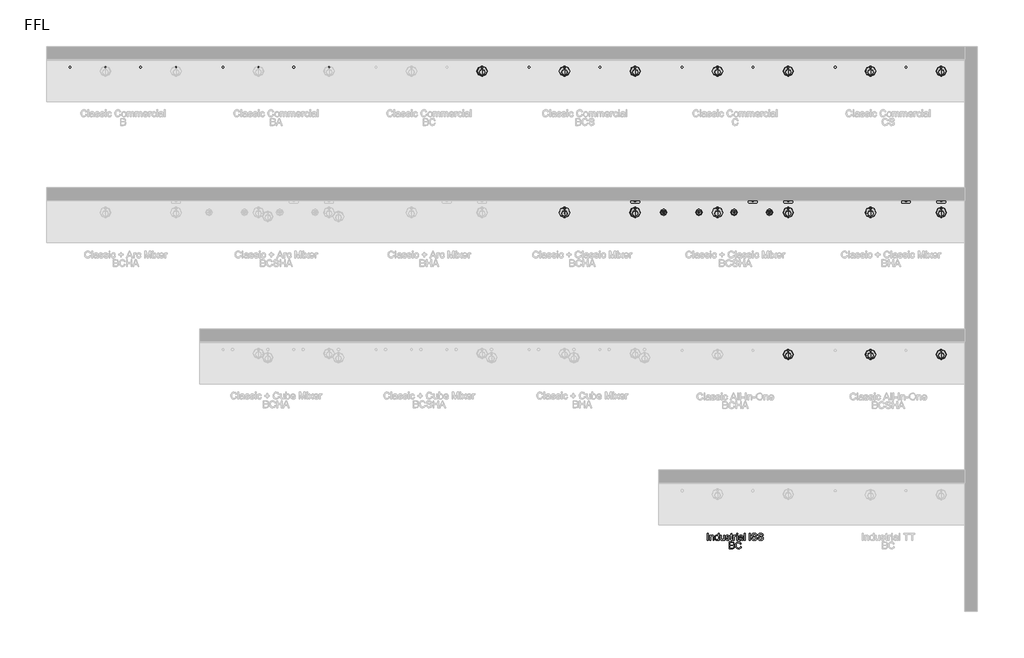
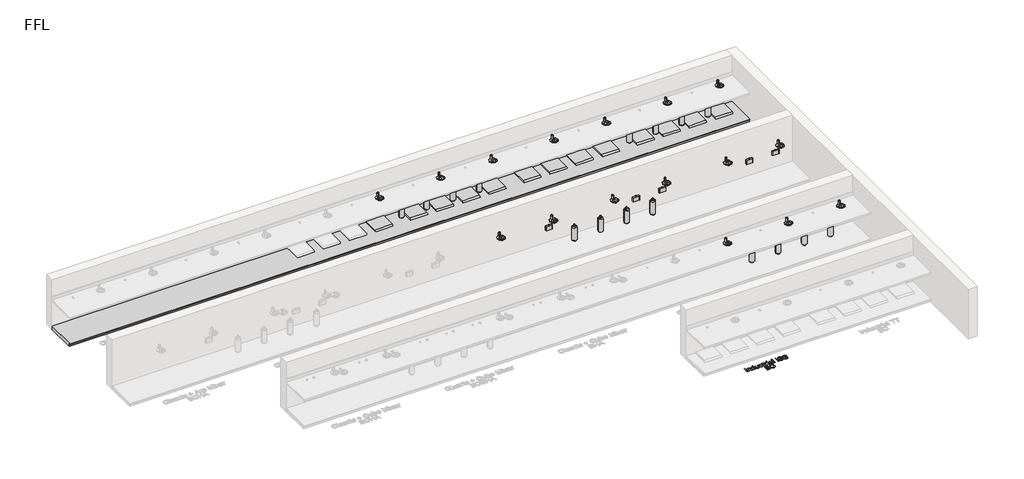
# One storey, part 4 of 13: 59 flow terminals, 1 furniture element, 1 proxy.
"""IFC4 building model written with IfcOpenShell, lengths in millimetres."""

from ifc_helpers import new_model, si_unit, origin, origin_with_axes, place, context, project, spatial, polyline, outline, extrude, transform, mapped, element, save
from components import flow_terminal_100_people_matte_black_e59bcbac, flow_terminal_100_people_matte_black_1da322c1, bcs_and_bc_6de74493, bright_chrome_13082571, co2_gas_cylinder_20234e14, generic_plinth_900mm_a81356e5

model = new_model("IFC4")

# Units and contexts
model_context = context("Model", 3, world=origin())
ifc_project = project(units=[si_unit("LENGTHUNIT", "METRE", prefix="MILLI")], contexts=[model_context])

# Site, building, storey
site = spatial("IfcSite", under=ifc_project)
building = spatial("IfcBuilding", under=site)
storey = spatial("IfcBuildingStorey", under=building, Name="FFL", Elevation=0.0)

# Proxy
placement = place(None, origin())
element("IfcBuildingElementProxy", 1, Name="150mm Arial", ObjectType="150mm Arial", at=placement, inside=storey, context=model_context, shape_type="SweptSolid", body=[
    extrude(outline(polyline([(7062.8534255, -2376.1981691), (7062.8534255, -2228.5058614), (7081.314964, -2228.5058614), (7081.314964, -2376.1981691), (7062.8534255, -2376.1981691)])), origin_with_axes(), (0.0, 0.0, 1.0), 5.0),
    extrude(outline(polyline([(7115.9303486, -2376.1981691), (7115.9303486, -2267.7366307), (7134.3918871, -2267.7366307), (7134.3918871, -2282.8808614), (7148.5084736, -2269.7919191), (7167.7813102, -2265.4289383), (7185.2152044, -2268.9445633), (7197.1142428, -2278.1753326), (7202.6490986, -2291.7510537), (7203.6226563, -2309.5996114), (7203.6226563, -2376.1981691), (7185.1611178, -2376.1981691), (7185.1611178, -2312.0875922), (7183.033714, -2295.7534576), (7175.5156852, -2287.1176403), (7162.8414063, -2283.8904768), (7152.0286058, -2285.7023758), (7142.8113582, -2291.138073), (7136.4967549, -2301.6398758), (7134.3918871, -2318.6500922), (7134.3918871, -2376.1981691), (7115.9303486, -2376.1981691)])), origin_with_axes(), (0.0, 0.0, 1.0), 5.0),
    extrude(outline(polyline([(7295.9303486, -2376.1981691), (7295.9303486, -2358.7823037), (7283.7158053, -2373.574972), (7266.8317909, -2378.5058614), (7254.8966948, -2376.7210057), (7243.971214, -2371.3664383), (7234.7224159, -2362.8162581), (7227.8173678, -2351.4445633), (7223.517488, -2337.7110898), (7222.0841948, -2322.075573), (7227.3666467, -2292.6885537), (7233.9652044, -2281.0329047), (7243.1959736, -2272.4601883), (7254.3603366, -2267.1867508), (7266.7596755, -2265.4289383), (7283.7789063, -2270.4589864), (7295.9303486, -2283.5298999), (7295.9303486, -2228.5058614), (7314.3918871, -2228.5058614), (7314.3918871, -2376.1981691), (7295.9303486, -2376.1981691)]), holes=[polyline([(7240.5457332, -2322.0034576), (7242.628065, -2338.7026763), (7248.8750602, -2350.5791787), (7257.9525842, -2357.6780369), (7268.5265025, -2360.044323), (7279.0959135, -2357.78621), (7287.9435698, -2351.011871), (7293.9336539, -2339.5951042), (7295.9303486, -2323.4097076), (7293.8975962, -2305.7143951), (7287.799339, -2293.4457653), (7278.7263222, -2286.2792989), (7267.7692909, -2283.8904768), (7257.0871996, -2286.1846475), (7248.3341948, -2293.0671595), (7242.4928486, -2304.8895754), (7240.5457332, -2322.0034576)])]), origin_with_axes(), (0.0, 0.0, 1.0), 5.0),
    extrude(outline(polyline([(7411.314964, -2376.1981691), (7411.314964, -2357.5563422), (7396.8558294, -2373.2684816), (7377.9976563, -2378.5058614), (7360.6358775, -2374.8279768), (7348.6647236, -2365.5972076), (7343.1659255, -2352.0034576), (7342.0841948, -2334.839996), (7342.0841948, -2267.7366307), (7360.5457332, -2267.7366307), (7360.5457332, -2326.1500922), (7361.6635217, -2344.9722076), (7368.9652044, -2356.0238903), (7382.721214, -2360.044323), (7398.1358775, -2355.933746), (7408.3221755, -2344.7378326), (7411.314964, -2324.1669191), (7411.314964, -2267.7366307), (7429.7765025, -2267.7366307), (7429.7765025, -2376.1981691), (7411.314964, -2376.1981691)])), origin_with_axes(), (0.0, 0.0, 1.0), 5.0),
    extrude(outline(polyline([(7448.2380409, -2343.8904768), (7466.6995794, -2341.5827845), (7469.611238, -2349.4794191), (7475.2452525, -2355.2847076), (7494.8245794, -2360.044323), (7513.6466948, -2355.6813422), (7519.7765025, -2345.4409576), (7513.6106371, -2337.1476883), (7494.6082332, -2331.8832653), (7466.8077525, -2322.8508133), (7454.674339, -2312.3039383), (7450.5457332, -2297.4121114), (7453.8630409, -2283.6561018), (7462.9135217, -2273.1452845), (7474.6503005, -2267.6825441), (7490.533714, -2265.4289383), (7512.9976563, -2269.0527364), (7527.2765025, -2278.8604287), (7533.6226563, -2295.4289383), (7515.1611178, -2297.7366307), (7508.2200121, -2287.5503326), (7491.9760217, -2283.8904768), (7474.3077525, -2287.388073), (7469.0072717, -2295.5371114), (7471.2067909, -2300.9097076), (7478.0938102, -2304.9842268), (7493.9952525, -2308.9145153), (7521.0926082, -2317.6044191), (7533.6767428, -2327.4481691), (7538.2380409, -2343.4938422), (7532.8834736, -2361.1621114), (7517.4327525, -2373.980621), (7494.5721755, -2378.5058614), (7475.9573919, -2376.324371), (7462.3726563, -2369.7798999), (7453.3041467, -2358.9445633), (7448.2380409, -2343.8904768)])), origin_with_axes(), (0.0, 0.0, 1.0), 5.0),
    extrude(outline(polyline([(7598.2380409, -2360.8015345), (7600.5457332, -2376.7390345), (7586.7356371, -2378.5058614), (7571.2668871, -2375.4409576), (7563.5505409, -2367.4000922), (7561.314964, -2346.450573), (7561.314964, -2286.1981691), (7547.4688102, -2286.1981691), (7547.4688102, -2267.7366307), (7561.314964, -2267.7366307), (7561.314964, -2241.3784576), (7579.7765025, -2230.5250922), (7579.7765025, -2267.7366307), (7598.2380409, -2267.7366307), (7598.2380409, -2286.1981691), (7579.7765025, -2286.1981691), (7579.7765025, -2345.9097076), (7580.7500602, -2355.4289383), (7583.9051082, -2358.8003326), (7590.1971755, -2360.044323), (7598.2380409, -2360.8015345)])), origin_with_axes(), (0.0, 0.0, 1.0), 5.0),
    extrude(outline(polyline([(7616.6995794, -2376.1981691), (7616.6995794, -2267.7366307), (7632.8534255, -2267.7366307), (7632.8534255, -2283.7823037), (7644.3197717, -2268.9986499), (7655.8582332, -2265.4289383), (7674.3918871, -2271.1260537), (7668.2260217, -2287.6765345), (7655.2452525, -2283.8904768), (7644.8065505, -2287.5323037), (7638.1539063, -2297.6284576), (7635.1611178, -2319.1909576), (7635.1611178, -2376.1981691), (7616.6995794, -2376.1981691)])), origin_with_axes(), (0.0, 0.0, 1.0), 5.0),
    extrude(outline(polyline([(7685.9303486, -2376.1981691), (7685.9303486, -2267.7366307), (7704.3918871, -2267.7366307), (7704.3918871, -2376.1981691), (7685.9303486, -2376.1981691)])), origin_with_axes(), (0.0, 0.0, 1.0), 5.0),
    extrude(outline(polyline([(7685.9303486, -2246.9673999), (7685.9303486, -2228.5058614), (7704.3918871, -2228.5058614), (7704.3918871, -2246.9673999), (7685.9303486, -2246.9673999)])), origin_with_axes(), (0.0, 0.0, 1.0), 5.0),
    extrude(outline(polyline([(7801.314964, -2362.3520153), (7783.4123198, -2374.8640345), (7763.6346755, -2378.5058614), (7748.2064904, -2376.3153566), (7736.8257813, -2369.7438422), (7729.8080529, -2359.7648758), (7727.4688102, -2347.3520153), (7731.002464, -2332.7486499), (7740.2873198, -2322.1476883), (7753.2140025, -2316.089996), (7769.1875602, -2313.3135537), (7801.2067909, -2306.9673999), (7801.314964, -2302.856823), (7800.0439303, -2294.6176403), (7796.2308294, -2289.2270153), (7787.7031852, -2285.2246114), (7775.8221755, -2283.8904768), (7757.1442909, -2287.4421595), (7748.2380409, -2300.044323), (7729.7765025, -2297.7366307), (7737.7632813, -2279.7077845), (7753.8450121, -2269.1428807), (7778.2019832, -2265.4289383), (7800.5757813, -2268.7101883), (7813.2140025, -2276.949371), (7818.8750602, -2289.4794191), (7819.7765025, -2305.6332653), (7819.7765025, -2328.6020153), (7820.7140025, -2360.6753326), (7824.3918871, -2376.1981691), (7805.9303486, -2376.1981691), (7801.314964, -2362.3520153)]), holes=[polyline([(7801.314964, -2325.4289383), (7771.5313102, -2331.089996), (7755.6478967, -2334.0827845), (7748.4543871, -2338.950573), (7745.9303486, -2346.0539383), (7751.4291467, -2356.0419191), (7767.564964, -2360.044323), (7786.2428486, -2355.6272557), (7798.2861178, -2344.9361499), (7801.2067909, -2330.6573037), (7801.314964, -2325.4289383)])]), origin_with_axes(), (0.0, 0.0, 1.0), 5.0),
    extrude(outline(polyline([(7845.1611178, -2376.1981691), (7845.1611178, -2228.5058614), (7863.6226563, -2228.5058614), (7863.6226563, -2376.1981691), (7845.1611178, -2376.1981691)])), origin_with_axes(), (0.0, 0.0, 1.0), 5.0),
    extrude(outline(polyline([(7953.6226563, -2376.1981691), (7953.6226563, -2228.5058614), (7972.0841948, -2228.5058614), (7972.0841948, -2376.1981691), (7953.6226563, -2376.1981691)])), origin_with_axes(), (0.0, 0.0, 1.0), 5.0),
    extrude(outline(polyline([(8002.0841948, -2325.4289383), (8020.5457332, -2325.4289383), (8026.4952525, -2343.9085057), (8041.0265025, -2355.591198), (8063.1659255, -2360.044323), (8082.4567909, -2356.6729287), (8094.9147236, -2347.4061018), (8099.0072717, -2335.0202845), (8095.9423678, -2323.4998518), (8083.3942909, -2315.1164383), (8056.5132813, -2308.0671595), (8027.5769832, -2298.9625922), (8011.8738582, -2285.2246114), (8006.6995794, -2266.871246), (8008.2996395, -2256.0584456), (8013.0998198, -2245.9758133), (8020.9739183, -2237.4301403), (8031.7957332, -2231.2282172), (8059.1635217, -2226.1981691), (8088.3702525, -2231.4625922), (8099.5661659, -2237.9619912), (8107.8414063, -2246.9313422), (8113.0787861, -2257.8117508), (8115.1611178, -2270.044323), (8096.6995794, -2270.044323), (8093.3101563, -2259.028698), (8086.2428486, -2251.0779768), (8075.2001803, -2246.2642749), (8059.8846755, -2244.6597076), (8044.2085938, -2246.246246), (8033.4543871, -2251.0058614), (8027.2344352, -2258.0100682), (8025.1611178, -2266.3303807), (8026.6304688, -2273.4247316), (8031.0385217, -2279.1308614), (8061.1827525, -2289.4433614), (8093.8510217, -2298.7101883), (8104.3753606, -2305.4079047), (8111.7176082, -2313.6741307), (8117.4688102, -2334.5515345), (8115.8146635, -2345.9322436), (8110.8522236, -2356.636871), (8102.784315, -2365.8496114), (8091.8137621, -2372.7546595), (8063.8870794, -2378.5058614), (8045.7996395, -2376.9553807), (8030.9123198, -2372.3039383), (8019.0538462, -2364.5335057), (8010.0529448, -2353.6260537), (8004.2746996, -2340.3387941), (8002.0841948, -2325.4289383)])), origin_with_axes(), (0.0, 0.0, 1.0), 5.0),
    extrude(outline(polyline([(8138.2380409, -2325.4289383), (8156.6995794, -2325.4289383), (8162.6490986, -2343.9085057), (8177.1803486, -2355.591198), (8199.3197717, -2360.044323), (8218.6106371, -2356.6729287), (8231.0685698, -2347.4061018), (8235.1611178, -2335.0202845), (8232.096214, -2323.4998518), (8219.5481371, -2315.1164383), (8192.6671275, -2308.0671595), (8163.7308294, -2298.9625922), (8148.0277044, -2285.2246114), (8142.8534255, -2266.871246), (8144.4534856, -2256.0584456), (8149.2536659, -2245.9758133), (8157.1277645, -2237.4301403), (8167.9495794, -2231.2282172), (8195.3173678, -2226.1981691), (8224.5240986, -2231.4625922), (8235.7200121, -2237.9619912), (8243.9952525, -2246.9313422), (8249.2326323, -2257.8117508), (8251.314964, -2270.044323), (8232.8534255, -2270.044323), (8229.4640025, -2259.028698), (8222.3966948, -2251.0779768), (8211.3540265, -2246.2642749), (8196.0385217, -2244.6597076), (8180.36244, -2246.246246), (8169.6082332, -2251.0058614), (8163.3882813, -2258.0100682), (8161.314964, -2266.3303807), (8162.784315, -2273.4247316), (8167.1923678, -2279.1308614), (8197.3365986, -2289.4433614), (8230.0048678, -2298.7101883), (8240.5292068, -2305.4079047), (8247.8714544, -2313.6741307), (8253.6226563, -2334.5515345), (8251.9685097, -2345.9322436), (8247.0060698, -2356.636871), (8238.9381611, -2365.8496114), (8227.9676082, -2372.7546595), (8200.0409255, -2378.5058614), (8181.9534856, -2376.9553807), (8167.0661659, -2372.3039383), (8155.2076924, -2364.5335057), (8146.2067909, -2353.6260537), (8140.4285457, -2340.3387941), (8138.2380409, -2325.4289383)])), origin_with_axes(), (0.0, 0.0, 1.0), 5.0),
    extrude(outline(polyline([(7529.0072717, -2558.5058614), (7529.0072717, -2410.8135537), (7585.3654448, -2410.8135537), (7612.9676082, -2415.1585057), (7622.2434496, -2420.6708254), (7629.2656852, -2428.5178807), (7635.1611178, -2447.4121114), (7630.2031852, -2464.6657172), (7615.221214, -2477.7366307), (7625.682452, -2483.199371), (7633.4123198, -2491.5106691), (7638.1854568, -2502.1206451), (7639.7765025, -2514.4794191), (7635.4315505, -2534.3291787), (7624.6683294, -2548.4637941), (7608.6046275, -2555.9637941), (7584.9327525, -2558.5058614), (7529.0072717, -2558.5058614)]), holes=[polyline([(7547.4688102, -2540.044323), (7585.3293871, -2540.044323), (7599.0313102, -2539.3231691), (7610.6238582, -2535.3027364), (7618.3041467, -2527.0996114), (7621.314964, -2514.6597076), (7617.7813102, -2500.308746), (7606.3329928, -2491.7450441), (7583.5265025, -2489.2750922), (7547.4688102, -2489.2750922), (7547.4688102, -2540.044323)]), polyline([(7547.4688102, -2470.8135537), (7581.1827525, -2470.8135537), (7600.8702525, -2469.2270153), (7612.7152044, -2462.3940826), (7616.6995794, -2450.3688422), (7612.9856371, -2438.325573), (7602.3486178, -2431.2041787), (7578.6226563, -2429.2750922), (7547.4688102, -2429.2750922), (7547.4688102, -2470.8135537)])]), origin_with_axes(), (0.0, 0.0, 1.0), 5.0),
    extrude(outline(polyline([(7769.0072717, -2506.0058614), (7787.4688102, -2510.7654768), (7778.9501803, -2532.2783975), (7765.5817909, -2547.9950441), (7748.0216948, -2557.6089263), (7726.9279448, -2560.8135537), (7705.5141828, -2558.3886739), (7688.5084736, -2551.1140345), (7675.4736178, -2539.2420393), (7665.9724159, -2523.0250922), (7660.1716347, -2503.9595874), (7658.2380409, -2483.5419191), (7660.4240385, -2462.0064624), (7666.9820313, -2443.4097076), (7677.5694712, -2428.3420994), (7691.8438102, -2417.3940826), (7708.7728967, -2410.7279167), (7727.3245794, -2408.5058614), (7747.5664664, -2411.3814624), (7764.3017428, -2420.0082653), (7777.0075722, -2433.8544191), (7785.1611178, -2452.388073), (7766.6995794, -2456.7871114), (7760.299339, -2443.3240706), (7751.5553486, -2434.0887941), (7740.3594352, -2428.7477484), (7726.6034255, -2426.9673999), (7710.7470553, -2428.9415585), (7697.721214, -2434.8640345), (7687.8368991, -2444.1128326), (7681.4051082, -2456.0659576), (7676.6995794, -2483.5058614), (7682.2704928, -2515.308746), (7689.3918871, -2527.1852484), (7699.6142428, -2535.6272557), (7711.869351, -2540.6708254), (7725.0890025, -2542.3520153), (7740.4991587, -2540.0623518), (7753.3402044, -2533.1933614), (7763.0352164, -2521.8171595), (7769.0072717, -2506.0058614)])), origin_with_axes(), (0.0, 0.0, 1.0), 5.0),
])

# Flow terminals
flow_terminal_100_people_matte_black_shape = flow_terminal_100_people_matte_black_e59bcbac(model_context)
element("IfcFlowTerminal", 2, ObjectType="PlumFixt_Zip Commercial_Classic_CS : 100 People - Bright Chrome", at=placement, inside=storey, context=model_context, shape_type="MappedRepresentation", body=[
    mapped(flow_terminal_100_people_matte_black_shape, transform((9779.2647071, 7562.7393304, 0.0), x_axis=(1.0, 0.0, 0.0), y_axis=(0.0, 1.0, 0.0), z_axis=(0.0, 0.0, 1.0))),
])
element("IfcFlowTerminal", 3, ObjectType="PlumFixt_Zip Commercial_Classic_CS : 100 People - Brushed Chrome", at=placement, inside=storey, context=model_context, shape_type="MappedRepresentation", body=[
    mapped(flow_terminal_100_people_matte_black_shape, transform((10529.2647071, 7562.7393304, 0.0), x_axis=(1.0, 0.0, 0.0), y_axis=(0.0, 1.0, 0.0), z_axis=(0.0, 0.0, 1.0))),
])
flow_terminal_100_people_matte_black_2_shape = flow_terminal_100_people_matte_black_1da322c1(model_context)
element("IfcFlowTerminal", 4, ObjectType="PlumFixt_Zip Commercial_Classic_Classic Mixer_BHA : 100 People - Gloss Black", at=placement, inside=storey, context=model_context, shape_type="MappedRepresentation", body=[
    mapped(flow_terminal_100_people_matte_black_2_shape, transform((11279.2657919, 4562.7393304, 0.0), x_axis=(1.0, 0.0, 0.0), y_axis=(0.0, 1.0, 0.0), z_axis=(0.0, 0.0, 1.0))),
])
element("IfcFlowTerminal", 5, ObjectType="PlumFixt_Zip Commercial_Classic_Classic Mixer_BCSHA : 100 People - Gloss Black", at=placement, inside=storey, context=model_context, shape_type="MappedRepresentation", body=[
    mapped(flow_terminal_100_people_matte_black_2_shape, transform((8029.2657919, 4562.7393304, 0.0), x_axis=(1.0, 0.0, 0.0), y_axis=(0.0, 1.0, 0.0), z_axis=(0.0, 0.0, 1.0))),
])
element("IfcFlowTerminal", 6, ObjectType="PlumFixt_Zip Commercial_Classic_C : 100 People - Gloss Black", at=placement, inside=storey, context=model_context, shape_type="MappedRepresentation", body=[
    mapped(flow_terminal_100_people_matte_black_shape, transform((8029.2647071, 7562.7393304, 0.0), x_axis=(1.0, 0.0, 0.0), y_axis=(0.0, 1.0, 0.0), z_axis=(0.0, 0.0, 1.0))),
])
element("IfcFlowTerminal", 7, ObjectType="PlumFixt_Zip Commercial_Classic_CS : 100 People - Gloss Black", at=placement, inside=storey, context=model_context, shape_type="MappedRepresentation", body=[
    mapped(flow_terminal_100_people_matte_black_shape, transform((11279.2647071, 7562.7393304, 0.0), x_axis=(1.0, 0.0, 0.0), y_axis=(0.0, 1.0, 0.0), z_axis=(0.0, 0.0, 1.0))),
])
element("IfcFlowTerminal", 8, ObjectType="PlumFixt_Zip Commercial_Classic_BCS : 100 People - Gloss Black", at=placement, inside=storey, context=model_context, shape_type="MappedRepresentation", body=[
    mapped(flow_terminal_100_people_matte_black_shape, transform((4779.2647071, 7562.7393304, 0.0), x_axis=(1.0, 0.0, 0.0), y_axis=(0.0, 1.0, 0.0), z_axis=(0.0, 0.0, 1.0))),
])
element("IfcFlowTerminal", 9, ObjectType="PlumFixt_Zip Commercial_Classic_Classic Mixer_BHA : 100 People - Matte Black", at=placement, inside=storey, context=model_context, shape_type="MappedRepresentation", body=[
    mapped(flow_terminal_100_people_matte_black_2_shape, transform((12029.2657919, 4562.7393304, 0.0), x_axis=(1.0, 0.0, 0.0), y_axis=(0.0, 1.0, 0.0), z_axis=(0.0, 0.0, 1.0))),
])
element("IfcFlowTerminal", 10, ObjectType="PlumFixt_Zip Commercial_Classic_Classic Mixer_BCSHA : 100 People - Matte Black", at=placement, inside=storey, context=model_context, shape_type="MappedRepresentation", body=[
    mapped(flow_terminal_100_people_matte_black_2_shape, transform((8779.2657919, 4562.7393304, 0.0), x_axis=(1.0, 0.0, 0.0), y_axis=(0.0, 1.0, 0.0), z_axis=(0.0, 0.0, 1.0))),
])
element("IfcFlowTerminal", 11, ObjectType="PlumFixt_Zip Commercial_Classic_C : 100 People - Matte Black", at=placement, inside=storey, context=model_context, shape_type="MappedRepresentation", body=[
    mapped(flow_terminal_100_people_matte_black_shape, transform((8779.2647071, 7562.7393304, 0.0), x_axis=(1.0, 0.0, 0.0), y_axis=(0.0, 1.0, 0.0), z_axis=(0.0, 0.0, 1.0))),
])
element("IfcFlowTerminal", 12, ObjectType="PlumFixt_Zip Commercial_Classic_CS : 100 People - Matte Black", at=placement, inside=storey, context=model_context, shape_type="MappedRepresentation", body=[
    mapped(flow_terminal_100_people_matte_black_shape, transform((12029.2647071, 7562.7393304, 0.0), x_axis=(1.0, 0.0, 0.0), y_axis=(0.0, 1.0, 0.0), z_axis=(0.0, 0.0, 1.0))),
])
element("IfcFlowTerminal", 13, ObjectType="PlumFixt_Zip Commercial_Classic_Classic Mixer_BCHA : 100 People - Matte Black", at=placement, inside=storey, context=model_context, shape_type="MappedRepresentation", body=[
    mapped(flow_terminal_100_people_matte_black_2_shape, transform((5529.2657919, 4562.7393304, 0.0), x_axis=(1.0, 0.0, 0.0), y_axis=(0.0, 1.0, 0.0), z_axis=(0.0, 0.0, 1.0))),
])
element("IfcFlowTerminal", 14, ObjectType="PlumFixt_Zip Commercial_Classic_BC : 100 People - Matte Black", at=placement, inside=storey, context=model_context, shape_type="MappedRepresentation", body=[
    mapped(flow_terminal_100_people_matte_black_shape, transform((2279.2647071, 7562.7393304, 0.0), x_axis=(1.0, 0.0, 0.0), y_axis=(0.0, 1.0, 0.0), z_axis=(0.0, 0.0, 1.0))),
])
element("IfcFlowTerminal", 15, ObjectType="PlumFixt_Zip Commercial_Classic_BCS : 100 People - Matte Black", at=placement, inside=storey, context=model_context, shape_type="MappedRepresentation", body=[
    mapped(flow_terminal_100_people_matte_black_shape, transform((5529.2647071, 7562.7393304, 0.0), x_axis=(1.0, 0.0, 0.0), y_axis=(0.0, 1.0, 0.0), z_axis=(0.0, 0.0, 1.0))),
])
bcs_and_bc_shape = bcs_and_bc_6de74493(model_context)
element("IfcFlowTerminal", 16, ObjectType="z_PlumFixt_Zip_Vent Tray : BCS and BC", at=placement, inside=storey, context=model_context, shape_type="MappedRepresentation", body=[
    mapped(bcs_and_bc_shape, transform((2279.2647071, 7705.7393304, 100.0), x_axis=(1.0, 0.0, 0.0), y_axis=(0.0, 1.0, 0.0), z_axis=(0.0, 0.0, 1.0))),
])
element("IfcFlowTerminal", 17, ObjectType="z_PlumFixt_Zip_Vent Tray : BCS and BC", at=placement, inside=storey, context=model_context, shape_type="MappedRepresentation", body=[
    mapped(bcs_and_bc_shape, transform((3279.2647071, 7705.7393304, 100.0), x_axis=(1.0, 0.0, 0.0), y_axis=(0.0, 1.0, 0.0), z_axis=(0.0, 0.0, 1.0))),
])
element("IfcFlowTerminal", 18, ObjectType="z_PlumFixt_Zip_Vent Tray : BCS and BC", at=placement, inside=storey, context=model_context, shape_type="MappedRepresentation", body=[
    mapped(bcs_and_bc_shape, transform((4029.2647071, 7705.7393304, 100.0), x_axis=(1.0, 0.0, 0.0), y_axis=(0.0, 1.0, 0.0), z_axis=(0.0, 0.0, 1.0))),
])
element("IfcFlowTerminal", 19, ObjectType="z_PlumFixt_Zip_Vent Tray : BCS and BC", at=placement, inside=storey, context=model_context, shape_type="MappedRepresentation", body=[
    mapped(bcs_and_bc_shape, transform((4779.2647071, 7705.7393304, 100.0), x_axis=(1.0, 0.0, 0.0), y_axis=(0.0, 1.0, 0.0), z_axis=(0.0, 0.0, 1.0))),
])
element("IfcFlowTerminal", 20, ObjectType="z_PlumFixt_Zip_Vent Tray : BCS and BC", at=placement, inside=storey, context=model_context, shape_type="MappedRepresentation", body=[
    mapped(bcs_and_bc_shape, transform((5529.2647071, 7705.7393304, 100.0), x_axis=(1.0, 0.0, 0.0), y_axis=(0.0, 1.0, 0.0), z_axis=(0.0, 0.0, 1.0))),
])
bright_chrome_shape = bright_chrome_13082571(model_context)
element("IfcFlowTerminal", 21, ObjectType="z_PlumFixt_Zip_Font and Tap Riser : Bright Chrome", at=placement, inside=storey, context=model_context, shape_type="MappedRepresentation", body=[
    mapped(bright_chrome_shape, transform((4029.2647071, 7577.9893304, 900.0), x_axis=(1.0, 0.0, 0.0), y_axis=(0.0, 1.0, 0.0), z_axis=(0.0, 0.0, 1.0))),
])
element("IfcFlowTerminal", 22, ObjectType="z_PlumFixt_Zip_Font and Tap Riser : Bright Chrome", at=placement, inside=storey, context=model_context, shape_type="MappedRepresentation", body=[
    mapped(bright_chrome_shape, transform((7279.2647071, 7577.9893304, 900.0), x_axis=(1.0, 0.0, 0.0), y_axis=(0.0, 1.0, 0.0), z_axis=(0.0, 0.0, 1.0))),
])
element("IfcFlowTerminal", 23, ObjectType="z_PlumFixt_Zip_Font and Tap Riser : Bright Chrome", at=placement, inside=storey, context=model_context, shape_type="MappedRepresentation", body=[
    mapped(bright_chrome_shape, transform((10529.2647071, 7577.9893304, 900.0), x_axis=(1.0, 0.0, 0.0), y_axis=(0.0, 1.0, 0.0), z_axis=(0.0, 0.0, 1.0))),
])
element("IfcFlowTerminal", 24, ObjectType="z_PlumFixt_Zip_Font and Tap Riser : Bright Chrome", at=placement, inside=storey, context=model_context, shape_type="MappedRepresentation", body=[
    mapped(bright_chrome_shape, transform((7279.2657919, 4577.9893304, 900.0), x_axis=(1.0, 0.0, 0.0), y_axis=(0.0, 1.0, 0.0), z_axis=(0.0, 0.0, 1.0))),
])
element("IfcFlowTerminal", 25, ObjectType="z_PlumFixt_Zip_Font and Tap Riser : Bright Chrome", at=placement, inside=storey, context=model_context, shape_type="MappedRepresentation", body=[
    mapped(bright_chrome_shape, transform((4029.2657919, 4577.9893304, 900.0), x_axis=(1.0, 0.0, 0.0), y_axis=(0.0, 1.0, 0.0), z_axis=(0.0, 0.0, 1.0))),
])
element("IfcFlowTerminal", 26, ObjectType="z_PlumFixt_Zip_Font and Tap Riser : Bright Chrome", at=placement, inside=storey, context=model_context, shape_type="MappedRepresentation", body=[
    mapped(bright_chrome_shape, transform((10529.2657919, 4577.9893304, 900.0), x_axis=(1.0, 0.0, 0.0), y_axis=(0.0, 1.0, 0.0), z_axis=(0.0, 0.0, 1.0))),
])
element("IfcFlowTerminal", 27, ObjectType="z_PlumFixt_Zip_Font and Tap Riser : Bright Chrome", at=placement, inside=storey, context=model_context, shape_type="MappedRepresentation", body=[
    mapped(bright_chrome_shape, transform((2279.2647071, 7577.9893304, 900.0), x_axis=(1.0, 0.0, 0.0), y_axis=(0.0, 1.0, 0.0), z_axis=(0.0, 0.0, 1.0))),
])
element("IfcFlowTerminal", 28, ObjectType="z_PlumFixt_Zip_Font and Tap Riser : Bright Chrome", at=placement, inside=storey, context=model_context, shape_type="MappedRepresentation", body=[
    mapped(bright_chrome_shape, transform((5529.2647071, 7577.9893304, 900.0), x_axis=(1.0, 0.0, 0.0), y_axis=(0.0, 1.0, 0.0), z_axis=(0.0, 0.0, 1.0))),
])
element("IfcFlowTerminal", 29, ObjectType="z_PlumFixt_Zip_Font and Tap Riser : Bright Chrome", at=placement, inside=storey, context=model_context, shape_type="MappedRepresentation", body=[
    mapped(bright_chrome_shape, transform((8779.2647071, 7577.9893304, 900.0), x_axis=(1.0, 0.0, 0.0), y_axis=(0.0, 1.0, 0.0), z_axis=(0.0, 0.0, 1.0))),
])
element("IfcFlowTerminal", 30, ObjectType="z_PlumFixt_Zip_Font and Tap Riser : Bright Chrome", at=placement, inside=storey, context=model_context, shape_type="MappedRepresentation", body=[
    mapped(bright_chrome_shape, transform((12029.2647071, 7577.9893304, 900.0), x_axis=(1.0, 0.0, 0.0), y_axis=(0.0, 1.0, 0.0), z_axis=(0.0, 0.0, 1.0))),
])
element("IfcFlowTerminal", 31, ObjectType="z_PlumFixt_Zip_Font and Tap Riser : Bright Chrome", at=placement, inside=storey, context=model_context, shape_type="MappedRepresentation", body=[
    mapped(bright_chrome_shape, transform((8779.2657919, 4577.9893304, 900.0), x_axis=(1.0, 0.0, 0.0), y_axis=(0.0, 1.0, 0.0), z_axis=(0.0, 0.0, 1.0))),
])
element("IfcFlowTerminal", 32, ObjectType="z_PlumFixt_Zip_Font and Tap Riser : Bright Chrome", at=placement, inside=storey, context=model_context, shape_type="MappedRepresentation", body=[
    mapped(bright_chrome_shape, transform((5529.2657919, 4577.9893304, 900.0), x_axis=(1.0, 0.0, 0.0), y_axis=(0.0, 1.0, 0.0), z_axis=(0.0, 0.0, 1.0))),
])
element("IfcFlowTerminal", 33, ObjectType="z_PlumFixt_Zip_Font and Tap Riser : Bright Chrome", at=placement, inside=storey, context=model_context, shape_type="MappedRepresentation", body=[
    mapped(bright_chrome_shape, transform((12029.2657919, 4577.9893304, 900.0), x_axis=(1.0, 0.0, 0.0), y_axis=(0.0, 1.0, 0.0), z_axis=(0.0, 0.0, 1.0))),
])
element("IfcFlowTerminal", 34, ObjectType="z_PlumFixt_Zip_Font and Tap Riser : Brushed Chrome", at=placement, inside=storey, context=model_context, shape_type="MappedRepresentation", body=[
    mapped(bright_chrome_shape, transform((10529.2647071, 1558.9393304, 900.0), x_axis=(1.0, 0.0, 0.0), y_axis=(0.0, 1.0, 0.0), z_axis=(0.0, 0.0, 1.0))),
])
co2_gas_cylinder_shape = co2_gas_cylinder_20234e14(model_context)
element("IfcFlowTerminal", 35, ObjectType="z_PlumFixt_Zip_CO2 Gas Cylinder : CO2 Gas Cylinder", at=placement, inside=storey, context=model_context, shape_type="MappedRepresentation", body=[
    mapped(co2_gas_cylinder_shape, transform((9484.2647071, 1490.1893304, 100.0), x_axis=(-1.0, 0.0, 0.0), y_axis=(0.0, -1.0, 0.0), z_axis=(0.0, 0.0, 1.0))),
])
element("IfcFlowTerminal", 36, ObjectType="z_PlumFixt_Zip_CO2 Gas Cylinder : CO2 Gas Cylinder", at=placement, inside=storey, context=model_context, shape_type="MappedRepresentation", body=[
    mapped(co2_gas_cylinder_shape, transform((10234.2647071, 1490.1893304, 100.0), x_axis=(-1.0, 0.0, 0.0), y_axis=(0.0, -1.0, 0.0), z_axis=(0.0, 0.0, 1.0))),
])
element("IfcFlowTerminal", 37, ObjectType="z_PlumFixt_Zip_CO2 Gas Cylinder : CO2 Gas Cylinder", at=placement, inside=storey, context=model_context, shape_type="MappedRepresentation", body=[
    mapped(co2_gas_cylinder_shape, transform((10984.2647071, 1490.1893304, 100.0), x_axis=(-1.0, 0.0, 0.0), y_axis=(0.0, -1.0, 0.0), z_axis=(0.0, 0.0, 1.0))),
])
element("IfcFlowTerminal", 38, ObjectType="z_PlumFixt_Zip_CO2 Gas Cylinder : CO2 Gas Cylinder", at=placement, inside=storey, context=model_context, shape_type="MappedRepresentation", body=[
    mapped(co2_gas_cylinder_shape, transform((11734.2647071, 1490.1893304, 100.0), x_axis=(-1.0, 0.0, 0.0), y_axis=(0.0, -1.0, 0.0), z_axis=(0.0, 0.0, 1.0))),
])
element("IfcFlowTerminal", 39, ObjectType="z_PlumFixt_Zip_CO2 Gas Cylinder : CO2 Gas Cylinder", at=placement, inside=storey, context=model_context, shape_type="MappedRepresentation", body=[
    mapped(co2_gas_cylinder_shape, transform((2910.2647071, 7684.7393304, 100.0), x_axis=(1.0, 0.0, 0.0), y_axis=(0.0, 1.0, 0.0), z_axis=(0.0, 0.0, 1.0))),
])
element("IfcFlowTerminal", 40, ObjectType="z_PlumFixt_Zip_CO2 Gas Cylinder : CO2 Gas Cylinder", at=placement, inside=storey, context=model_context, shape_type="MappedRepresentation", body=[
    mapped(co2_gas_cylinder_shape, transform((3632.2647071, 7683.2393304, 100.0), x_axis=(1.0, 0.0, 0.0), y_axis=(0.0, 1.0, 0.0), z_axis=(0.0, 0.0, 1.0))),
])
element("IfcFlowTerminal", 41, ObjectType="z_PlumFixt_Zip_CO2 Gas Cylinder : CO2 Gas Cylinder", at=placement, inside=storey, context=model_context, shape_type="MappedRepresentation", body=[
    mapped(co2_gas_cylinder_shape, transform((4382.2647071, 7683.2393304, 100.0), x_axis=(1.0, 0.0, 0.0), y_axis=(0.0, 1.0, 0.0), z_axis=(0.0, 0.0, 1.0))),
])
element("IfcFlowTerminal", 42, ObjectType="z_PlumFixt_Zip_CO2 Gas Cylinder : CO2 Gas Cylinder", at=placement, inside=storey, context=model_context, shape_type="MappedRepresentation", body=[
    mapped(co2_gas_cylinder_shape, transform((5132.2647071, 7683.2393304, 100.0), x_axis=(1.0, 0.0, 0.0), y_axis=(0.0, 1.0, 0.0), z_axis=(0.0, 0.0, 1.0))),
])
element("IfcFlowTerminal", 43, ObjectType="z_PlumFixt_Zip_CO2 Gas Cylinder : CO2 Gas Cylinder", at=placement, inside=storey, context=model_context, shape_type="MappedRepresentation", body=[
    mapped(co2_gas_cylinder_shape, transform((9441.2647071, 7503.2393304, 100.0), x_axis=(-1.0, 0.0, 0.0), y_axis=(0.0, -1.0, 0.0), z_axis=(0.0, 0.0, 1.0))),
])
element("IfcFlowTerminal", 44, ObjectType="z_PlumFixt_Zip_CO2 Gas Cylinder : CO2 Gas Cylinder", at=placement, inside=storey, context=model_context, shape_type="MappedRepresentation", body=[
    mapped(co2_gas_cylinder_shape, transform((10191.2647071, 7503.2393304, 100.0), x_axis=(-1.0, 0.0, 0.0), y_axis=(0.0, -1.0, 0.0), z_axis=(0.0, 0.0, 1.0))),
])
element("IfcFlowTerminal", 45, ObjectType="z_PlumFixt_Zip_CO2 Gas Cylinder : CO2 Gas Cylinder", at=placement, inside=storey, context=model_context, shape_type="MappedRepresentation", body=[
    mapped(co2_gas_cylinder_shape, transform((10941.2647071, 7503.2393304, 100.0), x_axis=(-1.0, 0.0, 0.0), y_axis=(0.0, -1.0, 0.0), z_axis=(0.0, 0.0, 1.0))),
])
element("IfcFlowTerminal", 46, ObjectType="z_PlumFixt_Zip_CO2 Gas Cylinder : CO2 Gas Cylinder", at=placement, inside=storey, context=model_context, shape_type="MappedRepresentation", body=[
    mapped(co2_gas_cylinder_shape, transform((11691.2647071, 7503.2393304, 100.0), x_axis=(-1.0, 0.0, 0.0), y_axis=(0.0, -1.0, 0.0), z_axis=(0.0, 0.0, 1.0))),
])
element("IfcFlowTerminal", 47, ObjectType="z_PlumFixt_Zip_CO2 Gas Cylinder : CO2 Gas Cylinder", at=placement, inside=storey, context=model_context, shape_type="MappedRepresentation", body=[
    mapped(co2_gas_cylinder_shape, transform((6132.2657919, 4683.2393304, 100.0), x_axis=(1.0, 0.0, 0.0), y_axis=(0.0, 1.0, 0.0), z_axis=(0.0, 0.0, 1.0))),
])
element("IfcFlowTerminal", 48, ObjectType="z_PlumFixt_Zip_CO2 Gas Cylinder : CO2 Gas Cylinder", at=placement, inside=storey, context=model_context, shape_type="MappedRepresentation", body=[
    mapped(co2_gas_cylinder_shape, transform((6882.2657919, 4683.2393304, 100.0), x_axis=(1.0, 0.0, 0.0), y_axis=(0.0, 1.0, 0.0), z_axis=(0.0, 0.0, 1.0))),
])
element("IfcFlowTerminal", 49, ObjectType="z_PlumFixt_Zip_CO2 Gas Cylinder : CO2 Gas Cylinder", at=placement, inside=storey, context=model_context, shape_type="MappedRepresentation", body=[
    mapped(co2_gas_cylinder_shape, transform((7632.2657919, 4683.2393304, 100.0), x_axis=(1.0, 0.0, 0.0), y_axis=(0.0, 1.0, 0.0), z_axis=(0.0, 0.0, 1.0))),
])
element("IfcFlowTerminal", 50, ObjectType="z_PlumFixt_Zip_CO2 Gas Cylinder : CO2 Gas Cylinder", at=placement, inside=storey, context=model_context, shape_type="MappedRepresentation", body=[
    mapped(co2_gas_cylinder_shape, transform((8382.2657919, 4683.2393304, 100.0), x_axis=(1.0, 0.0, 0.0), y_axis=(0.0, 1.0, 0.0), z_axis=(0.0, 0.0, 1.0))),
])
element("IfcFlowTerminal", 51, ObjectType="z_PlumFixt_Zip_Vent Tray : CS and C", at=placement, inside=storey, context=model_context, shape_type="MappedRepresentation", body=[
    mapped(bcs_and_bc_shape, transform((6529.2647071, 7705.7393304, 100.0), x_axis=(1.0, 0.0, 0.0), y_axis=(0.0, 1.0, 0.0), z_axis=(0.0, 0.0, 1.0))),
])
element("IfcFlowTerminal", 52, ObjectType="z_PlumFixt_Zip_Vent Tray : CS and C", at=placement, inside=storey, context=model_context, shape_type="MappedRepresentation", body=[
    mapped(bcs_and_bc_shape, transform((7279.2647071, 7705.7393304, 100.0), x_axis=(1.0, 0.0, 0.0), y_axis=(0.0, 1.0, 0.0), z_axis=(0.0, 0.0, 1.0))),
])
element("IfcFlowTerminal", 53, ObjectType="z_PlumFixt_Zip_Vent Tray : CS and C", at=placement, inside=storey, context=model_context, shape_type="MappedRepresentation", body=[
    mapped(bcs_and_bc_shape, transform((8029.2647071, 7705.7393304, 100.0), x_axis=(1.0, 0.0, 0.0), y_axis=(0.0, 1.0, 0.0), z_axis=(0.0, 0.0, 1.0))),
])
element("IfcFlowTerminal", 54, ObjectType="z_PlumFixt_Zip_Vent Tray : CS and C", at=placement, inside=storey, context=model_context, shape_type="MappedRepresentation", body=[
    mapped(bcs_and_bc_shape, transform((8779.2647071, 7705.7393304, 100.0), x_axis=(1.0, 0.0, 0.0), y_axis=(0.0, 1.0, 0.0), z_axis=(0.0, 0.0, 1.0))),
])
element("IfcFlowTerminal", 55, ObjectType="z_PlumFixt_Zip_Vent Tray : CS and C", at=placement, inside=storey, context=model_context, shape_type="MappedRepresentation", body=[
    mapped(bcs_and_bc_shape, transform((9779.2647071, 7705.7393304, 100.0), x_axis=(1.0, 0.0, 0.0), y_axis=(0.0, 1.0, 0.0), z_axis=(0.0, 0.0, 1.0))),
])
element("IfcFlowTerminal", 56, ObjectType="z_PlumFixt_Zip_Vent Tray : CS and C", at=placement, inside=storey, context=model_context, shape_type="MappedRepresentation", body=[
    mapped(bcs_and_bc_shape, transform((10529.2647071, 7705.7393304, 100.0), x_axis=(1.0, 0.0, 0.0), y_axis=(0.0, 1.0, 0.0), z_axis=(0.0, 0.0, 1.0))),
])
element("IfcFlowTerminal", 57, ObjectType="z_PlumFixt_Zip_Vent Tray : CS and C", at=placement, inside=storey, context=model_context, shape_type="MappedRepresentation", body=[
    mapped(bcs_and_bc_shape, transform((11279.2647071, 7705.7393304, 100.0), x_axis=(1.0, 0.0, 0.0), y_axis=(0.0, 1.0, 0.0), z_axis=(0.0, 0.0, 1.0))),
])
element("IfcFlowTerminal", 58, ObjectType="z_PlumFixt_Zip_Vent Tray : CS and C", at=placement, inside=storey, context=model_context, shape_type="MappedRepresentation", body=[
    mapped(bcs_and_bc_shape, transform((12029.2647071, 7705.7393304, 100.0), x_axis=(1.0, 0.0, 0.0), y_axis=(0.0, 1.0, 0.0), z_axis=(0.0, 0.0, 1.0))),
])
element("IfcFlowTerminal", 59, ObjectType="z_PlumFixt_Zip_Font and Tap Riser : Matte Black", at=placement, inside=storey, context=model_context, shape_type="MappedRepresentation", body=[
    mapped(bright_chrome_shape, transform((8779.2647071, 1558.9393304, 900.0), x_axis=(1.0, 0.0, 0.0), y_axis=(0.0, 1.0, 0.0), z_axis=(0.0, 0.0, 1.0))),
])
element("IfcFlowTerminal", 60, ObjectType="z_PlumFixt_Zip_Font and Tap Riser : Matte Black", at=placement, inside=storey, context=model_context, shape_type="MappedRepresentation", body=[
    mapped(bright_chrome_shape, transform((12029.2647071, 1558.9393304, 900.0), x_axis=(1.0, 0.0, 0.0), y_axis=(0.0, 1.0, 0.0), z_axis=(0.0, 0.0, 1.0))),
])

# Furniture
generic_plinth_900mm_shape = generic_plinth_900mm_a81356e5(model_context)
element("IfcFurniture", 61, ObjectType="Generic Plinth : 900mm", at=placement, inside=storey, context=model_context, shape_type="MappedRepresentation", body=[
    mapped(generic_plinth_900mm_shape, transform((2761.5270022, 7848.2393304, 0.0), x_axis=(1.0, 0.0, 0.0), y_axis=(0.0, 1.0, 0.0), z_axis=(0.0, 0.0, 1.0))),
])

save(model, "model.ifc")
